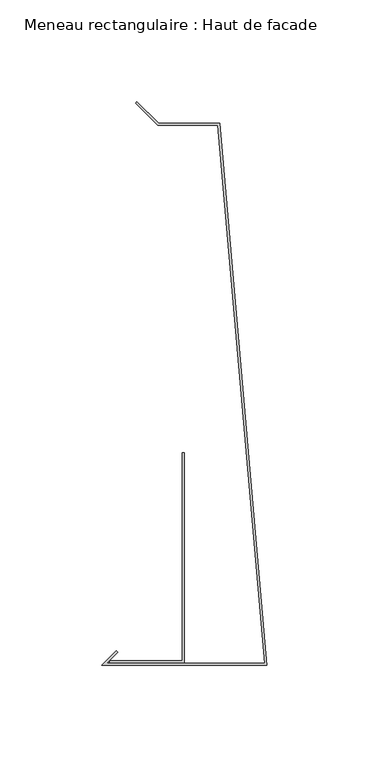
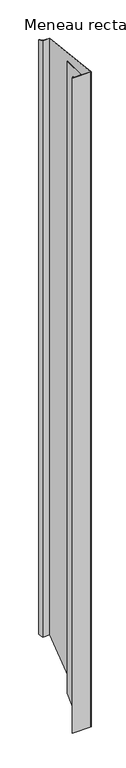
"""IFC4 building model written with IfcOpenShell, lengths in millimetres: member geometry, Meneau rectangulaire : Haut de facade."""

from ifc_helpers import new_model, si_unit, origin, place, context, project, spatial, faceted_brep, source, transform, mapped, element, save


def meneau_rectangulaire_haut_de_facade_f00e65dc(model_context):
    return source(origin(), model_context, "Body", "Brep", [
        faceted_brep([(-24.0647895, 160.703755, 0.0), (-1.0913085, -103.2, 0.0), (-78.5857864, -103.2, 0.0), (-73.2218254, -97.836039, 0.0), (-73.9289322, -97.1289322, 0.0), (-81.0, -104.2, 0.0), (0.0, -104.2, 0.0), (-23.1484584, 161.703755, 0.0), (-53.1484584, 161.703755, 0.0), (-63.7550601, 172.3103567, 0.0), (-64.4621669, 171.6032499, 0.0), (-53.5626719, 160.703755, 0.0), (-24.0647895, 160.703755, -2704.296245), (-1.0913085, -103.2, -2968.2), (-78.5857864, -103.2, -2968.2), (-73.2218254, -97.836039, -2962.836039), (-73.9289322, -97.1289322, -2962.1289322), (-81.0, -104.2, -2969.2), (0.0, -104.2, -2969.2), (-23.1484584, 161.703755, -2703.296245), (-53.1484584, 161.703755, -2703.296245), (-63.7550601, 172.3103567, -2692.6896433), (-64.4621669, 171.6032499, -2693.3967501), (-53.5626719, 160.703755, -2704.296245)], [[[0, 1, 2, 3, 4, 5, 6, 7, 8, 9, 10, 11]], [[1, 0, 12, 13]], [[2, 1, 13, 14]], [[3, 2, 14, 15]], [[4, 3, 15, 16]], [[5, 4, 16, 17]], [[6, 5, 17, 18]], [[7, 6, 18, 19]], [[8, 7, 19, 20]], [[9, 8, 20, 21]], [[10, 9, 21, 22]], [[11, 10, 22, 23]], [[0, 11, 23, 12]], [[12, 23, 22, 21, 20, 19, 18, 17, 16, 15, 14, 13]]]),
        faceted_brep([(-40.5477541, -102.9846816, 0.0), (-40.5477541, -0.0384227, 0.0), (-41.5477541, -0.0384227, 0.0), (-41.5477541, -101.9846816, 0.0), (-77.0752814, -101.9846816, 0.0), (-77.0752814, -102.9846816, 0.0), (-40.5477541, -102.9846816, -2967.9846816), (-40.5477541, -0.0384227, -2865.0384227), (-41.5477541, -0.0384227, -2865.0384227), (-41.5477541, -101.9846816, -2966.9846816), (-77.0752814, -101.9846816, -2966.9846816), (-77.0752814, -102.9846816, -2967.9846816)], [[[0, 1, 2, 3, 4, 5]], [[1, 0, 6, 7]], [[2, 1, 7, 8]], [[3, 2, 8, 9]], [[4, 3, 9, 10]], [[5, 4, 10, 11]], [[0, 5, 11, 6]], [[6, 11, 10, 9, 8, 7]]]),
    ])


if __name__ == "__main__":
    model = new_model("IFC4")
    model_context = context("Model", 3, world=origin())
    ifc_project = project(units=[si_unit("LENGTHUNIT", "METRE", prefix="MILLI")], contexts=[model_context])
    site = spatial("IfcSite", under=ifc_project)
    building = spatial("IfcBuilding", under=site)
    placement = place(None, origin())
    meneau_rectangulaire_haut_de_facade_shape = meneau_rectangulaire_haut_de_facade_f00e65dc(model_context)
    element("IfcMember", 1, ObjectType="Meneau rectangulaire : Haut de facade", at=placement, inside=building, context=model_context, shape_type="MappedRepresentation", body=[
        mapped(meneau_rectangulaire_haut_de_facade_shape, transform((0.0, 0.0, 0.0), x_axis=(1.0, 0.0, 0.0), y_axis=(0.0, 1.0, 0.0), z_axis=(0.0, 0.0, 1.0))),
    ])
    save(model, "model.ifc")
